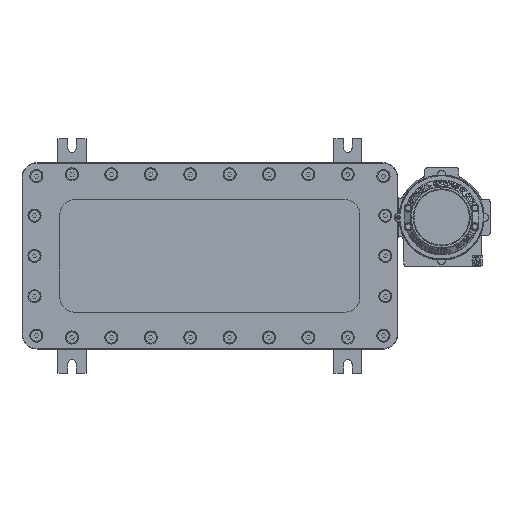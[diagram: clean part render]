
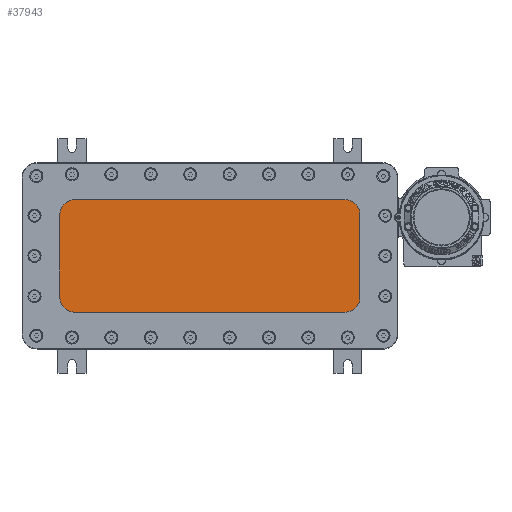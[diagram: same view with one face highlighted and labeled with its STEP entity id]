
A CAD part, top view. The second image highlights one B-rep face of the part: STEP entity #37943.
In plain terms, the highlighted planar face has unit normal (0, 0, 1).
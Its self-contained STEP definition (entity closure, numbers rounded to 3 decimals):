
#36998=CARTESIAN_POINT('',(144.,-60.,0.));
#36999=VERTEX_POINT('',#36998);
#37000=CARTESIAN_POINT('',(160.,-44.,0.));
#37001=VERTEX_POINT('',#37000);
#37002=CARTESIAN_POINT('',(144.,-44.,0.));
#37003=DIRECTION('',(0.,0.,1.0));
#37004=DIRECTION('',(0.707,-0.707,0.));
#37005=AXIS2_PLACEMENT_3D('',#37002,#37003,#37004);
#37006=CIRCLE('',#37005,16.);
#37007=EDGE_CURVE('',#36999,#37001,#37006,.T.);
#37041=CARTESIAN_POINT('',(-144.,-60.,0.));
#37042=VERTEX_POINT('',#37041);
#37043=CARTESIAN_POINT('',(-144.,-60.,0.));
#37044=DIRECTION('',(1.0,0.0,0.0));
#37045=VECTOR('',#37044,288.0);
#37046=LINE('',#37043,#37045);
#37047=EDGE_CURVE('',#37042,#36999,#37046,.T.);
#37071=CARTESIAN_POINT('',(160.,44.,0.));
#37072=VERTEX_POINT('',#37071);
#37073=CARTESIAN_POINT('',(144.,60.,0.));
#37074=VERTEX_POINT('',#37073);
#37075=CARTESIAN_POINT('',(144.,44.,0.));
#37076=DIRECTION('',(0.,0.,1.0));
#37077=DIRECTION('',(0.707,0.707,0.));
#37078=AXIS2_PLACEMENT_3D('',#37075,#37076,#37077);
#37079=CIRCLE('',#37078,16.0);
#37080=EDGE_CURVE('',#37072,#37074,#37079,.T.);
#37121=CARTESIAN_POINT('',(160.,-44.,0.));
#37122=DIRECTION('',(0.0,1.0,0.0));
#37123=VECTOR('',#37122,88.0);
#37124=LINE('',#37121,#37123);
#37125=EDGE_CURVE('',#37001,#37072,#37124,.T.);
#37135=CARTESIAN_POINT('',(-144.,60.,0.));
#37136=VERTEX_POINT('',#37135);
#37137=CARTESIAN_POINT('',(-160.,44.,0.));
#37138=VERTEX_POINT('',#37137);
#37139=CARTESIAN_POINT('',(-144.,44.,0.));
#37140=DIRECTION('',(0.,0.,1.0));
#37141=DIRECTION('',(-0.707,0.707,0.));
#37142=AXIS2_PLACEMENT_3D('',#37139,#37140,#37141);
#37143=CIRCLE('',#37142,16.);
#37144=EDGE_CURVE('',#37136,#37138,#37143,.T.);
#37185=CARTESIAN_POINT('',(144.,60.,0.));
#37186=DIRECTION('',(-1.0,0.0,0.0));
#37187=VECTOR('',#37186,288.0);
#37188=LINE('',#37185,#37187);
#37189=EDGE_CURVE('',#37074,#37136,#37188,.T.);
#37199=CARTESIAN_POINT('',(-160.,-44.,0.));
#37200=VERTEX_POINT('',#37199);
#37201=CARTESIAN_POINT('',(-144.,-44.,0.));
#37202=DIRECTION('',(0.,0.,1.0));
#37203=DIRECTION('',(-0.707,-0.707,0.));
#37204=AXIS2_PLACEMENT_3D('',#37201,#37202,#37203);
#37205=CIRCLE('',#37204,16.0);
#37206=EDGE_CURVE('',#37200,#37042,#37205,.T.);
#37240=CARTESIAN_POINT('',(-160.,44.,0.));
#37241=DIRECTION('',(0.0,-1.0,0.0));
#37242=VECTOR('',#37241,88.);
#37243=LINE('',#37240,#37242);
#37244=EDGE_CURVE('',#37138,#37200,#37243,.T.);
#37928=CARTESIAN_POINT('',(0.,0.,0.));
#37929=DIRECTION('',(0.0,0.0,1.0));
#37930=DIRECTION('',(0.0,1.0,0.0));
#37931=AXIS2_PLACEMENT_3D('',#37928,#37929,#37930);
#37932=PLANE('',#37931);
#37933=ORIENTED_EDGE('',*,*,#37144,.T.);
#37934=ORIENTED_EDGE('',*,*,#37244,.T.);
#37935=ORIENTED_EDGE('',*,*,#37206,.T.);
#37936=ORIENTED_EDGE('',*,*,#37047,.T.);
#37937=ORIENTED_EDGE('',*,*,#37007,.T.);
#37938=ORIENTED_EDGE('',*,*,#37125,.T.);
#37939=ORIENTED_EDGE('',*,*,#37080,.T.);
#37940=ORIENTED_EDGE('',*,*,#37189,.T.);
#37941=EDGE_LOOP('',(#37933,#37934,#37935,#37936,#37937,#37938,#37939,#37940));
#37942=FACE_OUTER_BOUND('',#37941,.T.);
#37943=ADVANCED_FACE('',(#37942),#37932,.T.);
